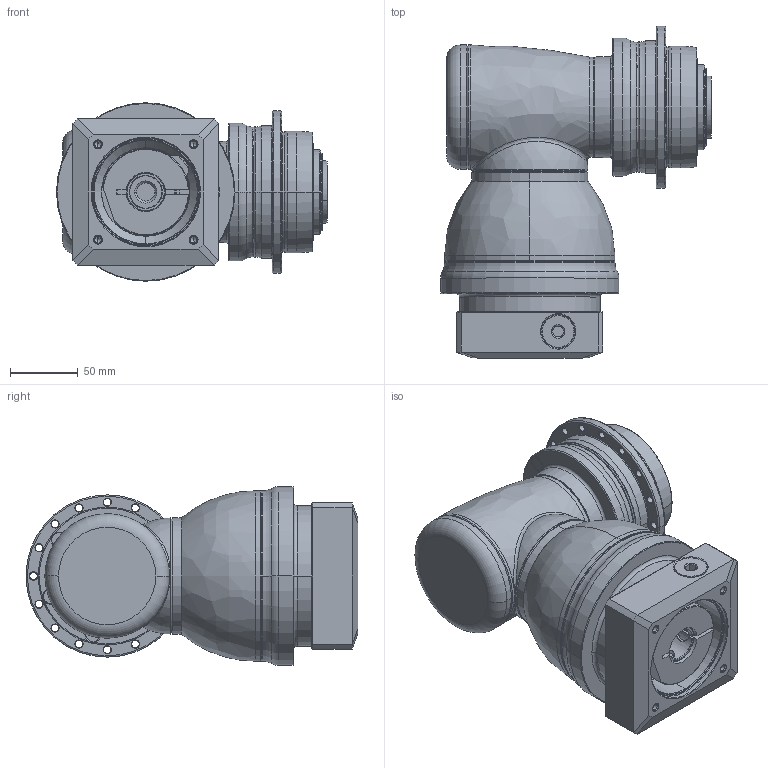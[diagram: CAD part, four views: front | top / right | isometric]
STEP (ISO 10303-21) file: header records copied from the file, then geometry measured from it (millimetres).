
FILE_DESCRIPTION((''),'2;1');
FILE_NAME('APK090_2ST_SBG_24-P0409510201_ASM','2018-10-30T',('d01226'),(''),'PRO/ENGINEER BY PARAMETRIC TECHNOLOGY CORPORATION, 2015240','PRO/ENGINEER BY PARAMETRIC TECHNOLOGY CORPORATION, 2015240','');
FILE_SCHEMA(('CONFIG_CONTROL_DESIGN'));
Length unit declared in the file: millimetre
Products named in the file (13): P0278301003; P0359301103; P1211300001; P1802310011; P1018400002; P1365400001; P1007401001; P1318410101; P0503500010; P0912401201; P0409510201; 21711418017; APK090_2ST_SBG_24-P0409510201_ASM
Assembly tree (12 placements, depth 2):
  APK090_2ST_SBG_24-P0409510201_ASM
    P0278301003
    P0359301103
    P1211300001
    P1802310011
    P1018400002
    P1365400001
    P1007401001
    P1318410101
    P0503500010
    P0912401201
    P0409510201
    21711418017
Bounding box: 200.4 x 245.5 x 132 mm (x, y, z)
Volume: 2648002.3 mm3; surface area: 336464.2 mm2
Topology: 13 solids, 34 shells, 759 faces, 1748 edges, 1053 vertices
Faces by surface type: cylinder 301, cone 184, plane 153, torus 83, bspline 37, sphere 1
Entity records: 28988 total; most frequent: CARTESIAN_POINT 11210, DIRECTION 4088, ORIENTED_EDGE 3338, AXIS2_PLACEMENT_3D 1766, EDGE_CURVE 1712, VERTEX_POINT 1053, CIRCLE 1009, EDGE_LOOP 881
